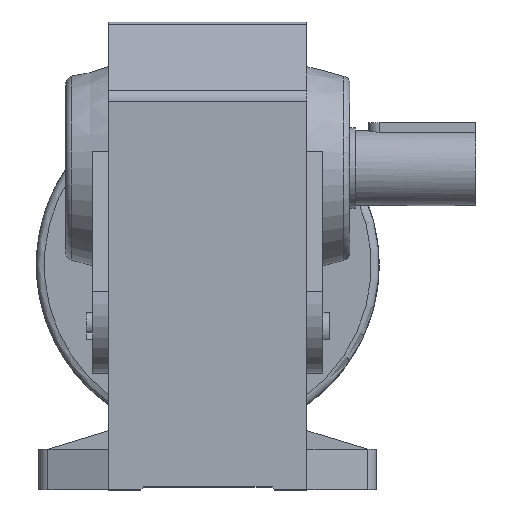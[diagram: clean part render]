
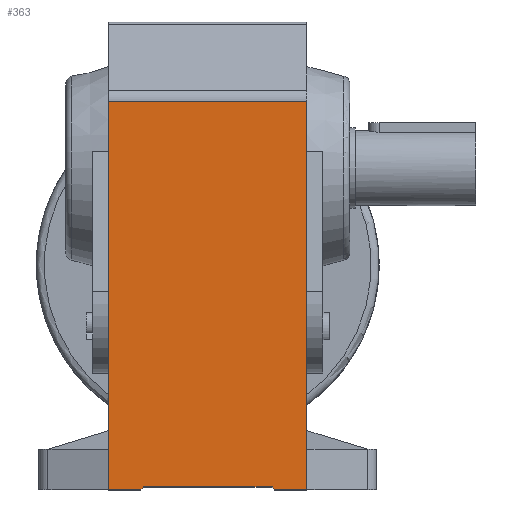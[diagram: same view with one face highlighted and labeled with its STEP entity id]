
A CAD part, top view. The second image highlights one B-rep face of the part: STEP entity #363.
In plain terms, the highlighted planar face has unit normal (0, 0, 1).
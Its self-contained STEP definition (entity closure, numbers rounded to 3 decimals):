
#363 = ADVANCED_FACE( '', ( #992 ), #993, .F. );
#992 = FACE_OUTER_BOUND( '', #2015, .T. );
#993 = PLANE( '', #2016 );
#2015 = EDGE_LOOP( '', ( #3740, #3741, #3742, #3743, #3744, #3745, #3746, #3747, #3748, #3749 ) );
#2016 = AXIS2_PLACEMENT_3D( '', #3750, #3751, #3752 );
#3740 = ORIENTED_EDGE( '', *, *, #6938, .F. );
#3741 = ORIENTED_EDGE( '', *, *, #6932, .F. );
#3742 = ORIENTED_EDGE( '', *, *, #6936, .F. );
#3743 = ORIENTED_EDGE( '', *, *, #7115, .F. );
#3744 = ORIENTED_EDGE( '', *, *, #6968, .F. );
#3745 = ORIENTED_EDGE( '', *, *, #7118, .F. );
#3746 = ORIENTED_EDGE( '', *, *, #6910, .T. );
#3747 = ORIENTED_EDGE( '', *, *, #6829, .T. );
#3748 = ORIENTED_EDGE( '', *, *, #6944, .T. );
#3749 = ORIENTED_EDGE( '', *, *, #7116, .F. );
#3750 = CARTESIAN_POINT( '', ( 37., 24.919, 62.5 ) );
#3751 = DIRECTION( '', ( 0., 0., -1. ) );
#3752 = DIRECTION( '', ( -1., 0., 0. ) );
#6829 = EDGE_CURVE( '', #8165, #8163, #8166, .T. );
#6910 = EDGE_CURVE( '', #8309, #8165, #8310, .T. );
#6932 = EDGE_CURVE( '', #8346, #8348, #8349, .T. );
#6936 = EDGE_CURVE( '', #8353, #8346, #8355, .T. );
#6938 = EDGE_CURVE( '', #8348, #8358, #8359, .T. );
#6944 = EDGE_CURVE( '', #8163, #8367, #8369, .T. );
#6968 = EDGE_CURVE( '', #8378, #8405, #8407, .T. );
#7115 = EDGE_CURVE( '', #8405, #8353, #8641, .T. );
#7116 = EDGE_CURVE( '', #8358, #8367, #8642, .T. );
#7118 = EDGE_CURVE( '', #8309, #8378, #8644, .T. );
#8163 = VERTEX_POINT( '', #10354 );
#8165 = VERTEX_POINT( '', #10357 );
#8166 = LINE( '', #10358, #10359 );
#8309 = VERTEX_POINT( '', #10660 );
#8310 = LINE( '', #10661, #10662 );
#8346 = VERTEX_POINT( '', #10711 );
#8348 = VERTEX_POINT( '', #10714 );
#8349 = LINE( '', #10715, #10716 );
#8353 = VERTEX_POINT( '', #10722 );
#8355 = LINE( '', #10725, #10726 );
#8358 = VERTEX_POINT( '', #10730 );
#8359 = LINE( '', #10731, #10732 );
#8367 = VERTEX_POINT( '', #10744 );
#8369 = LINE( '', #10747, #10748 );
#8378 = VERTEX_POINT( '', #10761 );
#8405 = VERTEX_POINT( '', #10800 );
#8407 = LINE( '', #10803, #10804 );
#8641 = LINE( '', #11172, #11173 );
#8642 = LINE( '', #11174, #11175 );
#8644 = LINE( '', #11178, #11179 );
#10354 = CARTESIAN_POINT( '', ( -37., -105., 62.5 ) );
#10357 = CARTESIAN_POINT( '', ( -37., 24.919, 62.5 ) );
#10358 = CARTESIAN_POINT( '', ( -37., 24.919, 62.5 ) );
#10359 = VECTOR( '', #14053, 1000. );
#10660 = CARTESIAN_POINT( '', ( 37., 24.919, 62.5 ) );
#10661 = CARTESIAN_POINT( '', ( 37., 24.919, 62.5 ) );
#10662 = VECTOR( '', #14182, 1000. );
#10711 = CARTESIAN_POINT( '', ( 24., -119., 62.5 ) );
#10714 = CARTESIAN_POINT( '', ( -24., -119., 62.5 ) );
#10715 = CARTESIAN_POINT( '', ( 37., -119., 62.5 ) );
#10716 = VECTOR( '', #14218, 1000. );
#10722 = CARTESIAN_POINT( '', ( 25., -120., 62.5 ) );
#10725 = CARTESIAN_POINT( '', ( -41.46, -53.54, 62.5 ) );
#10726 = VECTOR( '', #14222, 1000. );
#10730 = CARTESIAN_POINT( '', ( -25., -120., 62.5 ) );
#10731 = CARTESIAN_POINT( '', ( 78.46, -16.54, 62.5 ) );
#10732 = VECTOR( '', #14224, 1000. );
#10744 = CARTESIAN_POINT( '', ( -37., -120., 62.5 ) );
#10747 = CARTESIAN_POINT( '', ( -37., -105., 62.5 ) );
#10748 = VECTOR( '', #14230, 1000. );
#10761 = CARTESIAN_POINT( '', ( 37., -105., 62.5 ) );
#10800 = CARTESIAN_POINT( '', ( 37., -120., 62.5 ) );
#10803 = CARTESIAN_POINT( '', ( 37., -105., 62.5 ) );
#10804 = VECTOR( '', #14266, 1000. );
#11172 = CARTESIAN_POINT( '', ( 37., -120., 62.5 ) );
#11173 = VECTOR( '', #14437, 1000. );
#11174 = CARTESIAN_POINT( '', ( 37., -120., 62.5 ) );
#11175 = VECTOR( '', #14438, 1000. );
#11178 = CARTESIAN_POINT( '', ( 37., 24.919, 62.5 ) );
#11179 = VECTOR( '', #14440, 1000. );
#14053 = DIRECTION( '', ( 0., -1., 0. ) );
#14182 = DIRECTION( '', ( -1., 0., 0. ) );
#14218 = DIRECTION( '', ( -1., 0., 0. ) );
#14222 = DIRECTION( '', ( -0.707, 0.707, 0. ) );
#14224 = DIRECTION( '', ( -0.707, -0.707, 0. ) );
#14230 = DIRECTION( '', ( 0., -1., 0. ) );
#14266 = DIRECTION( '', ( 0., -1., 0. ) );
#14437 = DIRECTION( '', ( -1., 0., 0. ) );
#14438 = DIRECTION( '', ( -1., 0., 0. ) );
#14440 = DIRECTION( '', ( 0., -1., 0. ) );
